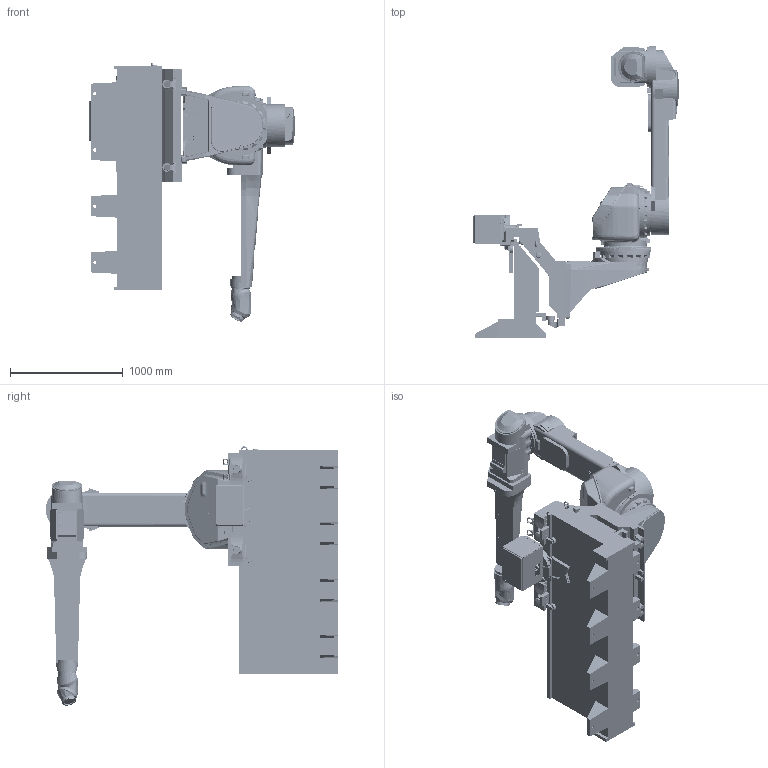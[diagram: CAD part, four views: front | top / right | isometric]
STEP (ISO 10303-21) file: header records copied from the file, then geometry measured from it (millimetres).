
FILE_DESCRIPTION (( 'STEP AP214' ), '1' );
FILE_NAME ('IRB5500-23_rev00.STEP', '2018-07-25T11:21:54', ( '' ), ( '' ), 'SwSTEP 2.0', 'SolidWorks 2016', '' );
FILE_SCHEMA (( 'AUTOMOTIVE_DESIGN' ));
Length unit declared in the file: millimetre
Products named in the file (11): IRB5500-23_rev00_LINK1_CAD; IRB5500-23_rev00_FOOT_CAD; IRB5500-23_rev00_TROLLEY_CAD; IRB5500-23_rev00_RAIL_CAD; IRB5500-23_rev00; IRB5500-23_rev00_LINK6_CAD; IRB5500-23_rev00_LINK5B_CAD; IRB5500-23_rev00_LINK5_CAD; IRB5500-23_rev00_LINK4_CAD; IRB5500-23_rev00_LINK3_CAD; IRB5500-23_rev00_LINK2_CAD
Assembly tree (10 placements, depth 2):
  IRB5500-23_rev00
    IRB5500-23_rev00_RAIL_CAD
    IRB5500-23_rev00_TROLLEY_CAD
    IRB5500-23_rev00_FOOT_CAD
    IRB5500-23_rev00_LINK1_CAD
    IRB5500-23_rev00_LINK2_CAD
    IRB5500-23_rev00_LINK3_CAD
    IRB5500-23_rev00_LINK4_CAD
    IRB5500-23_rev00_LINK5_CAD
    IRB5500-23_rev00_LINK5B_CAD
    IRB5500-23_rev00_LINK6_CAD
Bounding box: 1825.38 x 2600 x 2303.3 mm (x, y, z)
Volume: 779556518.9 mm3; surface area: 22663507.7 mm2
Topology: 59 solids, 63 shells, 6231 faces, 19836 edges, 12122 vertices
Faces by surface type: plane 2532, cylinder 1626, torus 961, cone 605, bspline 380, sphere 127
Full cylindrical faces by diameter (mm): 2 x2, 3 x2, 3.2 x8, 4 x10, 5 x36, 6 x65, 6.2 x2, 6.5 x29, 7 x20, 7.2 x64, 7.22 x88, 8 x41, 8.5 x34, 8.7 x4, 9 x4, 10 x19, 10.2 x11, 10.5 x2, 11 x10, 12 x9, 12.5 x3, 14 x9, 14.5 x1, 15 x2, 15.25 x3, 16 x14, 16.5 x12, 16.66 x1, 17 x12, 17.5 x2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
Entity records: 308493 total; most frequent: CARTESIAN_POINT 90581, DIRECTION 33917, ORIENTED_EDGE 33858, EDGE_CURVE 16929, AXIS2_PLACEMENT_3D 13896, VERTEX_POINT 11121, EDGE_LOOP 9156, CIRCLE 8032
